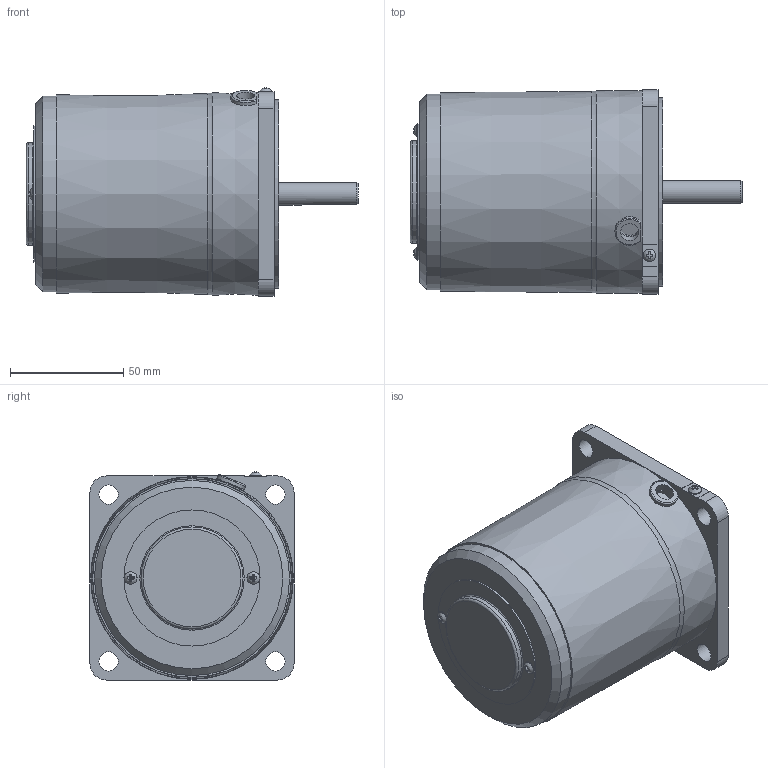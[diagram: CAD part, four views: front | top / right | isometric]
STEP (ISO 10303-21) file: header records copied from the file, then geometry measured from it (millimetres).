
FILE_DESCRIPTION(/* description */ (''),/* implementation_level */ '2;1');
FILE_NAME(/* name */ 'E:\도면작업\2016\0704) 미주향 SG 도면\3D MOTOR\SG6R\SG9R40K\SG9R40K_.stp',/* time_stamp */ '2016-12-12T16:34:14+09:00',/* author */ ('jy-jung'),/* organization */ (''),/* preprocessor_version */ 'ST-DEVELOPER v15.6',/* originating_system */ 'Autodesk Inventor 2015',/* authorisation */ '');
FILE_SCHEMA (('AUTOMOTIVE_DESIGN { 1 0 10303 214 3 1 1 }'));
Length unit declared in the file: millimetre
Products named in the file (1): 부품5
Bounding box: 146.3 x 90 x 91.76 mm (x, y, z)
Volume: 650653.6 mm3; surface area: 53677.5 mm2
Topology: 1 solids, 5 shells, 152 faces, 388 edges, 260 vertices
Faces by surface type: plane 98, cylinder 37, torus 10, cone 4, bspline 3
Full cylindrical faces by diameter (mm): 3 x2, 3.5 x2, 5.6 x3, 8 x1, 8.5 x4, 10 x2, 40 x1, 43 x1, 45 x1, 60 x1, 83 x1, 86 x1
Entity records: 4821 total; most frequent: CARTESIAN_POINT 1130, DIRECTION 695, ORIENTED_EDGE 688, EDGE_CURVE 344, AXIS2_PLACEMENT_3D 252, VERTEX_POINT 249, EDGE_LOOP 213, LINE 191
